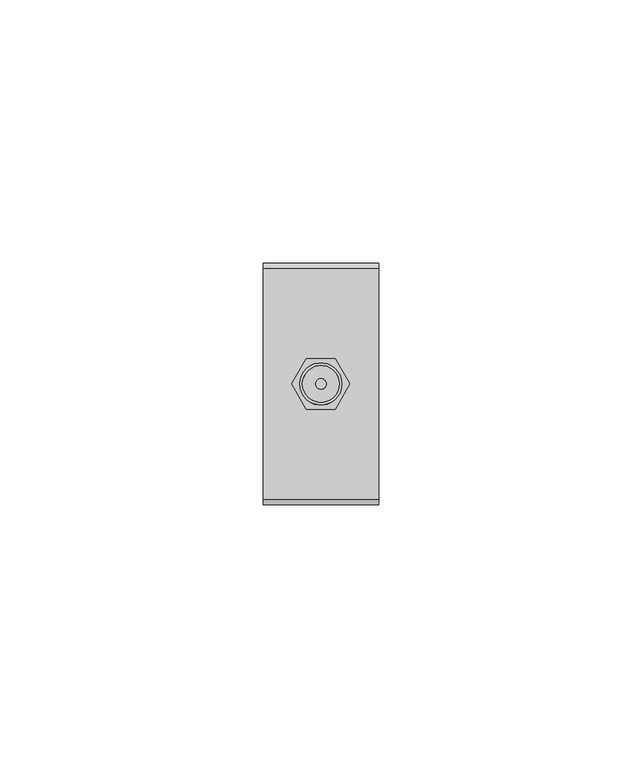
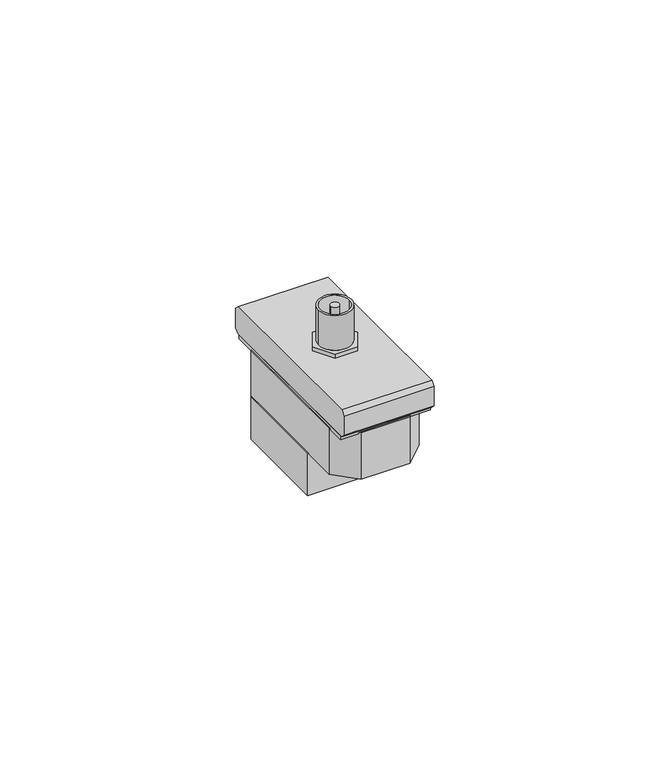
"""IFC4 building model written with IfcOpenShell, lengths in millimetres: proxy geometry, L4202F LL Presa TV-SAT : L4202F LL Presa TV-SAT."""

from ifc_helpers import new_model, si_unit, frame, origin, origin_with_axes, place, context, project, spatial, polyline, circle_curve, outline, extrude, source, transform, mapped, element, save
from ifc_brep_helpers import plane_surface, cylinder_surface, revolved_surface, advanced_brep


def electrical_fixtures_40dd1942(model_context):
    return source(origin(), model_context, "Body", "SolidModel", [
        advanced_brep(
        [(-1.0, 0.0, 18.0), (1.0, 0.0, 18.0), (-4.0, 0.0, 18.0), (4.0, 0.0, 18.0), (-3.5, 0.0, 18.0), (3.5, 0.0, 18.0), (2.75, 4.7631397, 7.979899), (5.5, 0.0, 7.979899), (2.75, -4.7631397, 7.979899), (-2.75, -4.7631397, 7.979899), (-5.5, 0.0, 7.979899), (-2.75, 4.7631397, 7.979899), (-1.0, 0.0, 9.0249305), (1.0, 0.0, 9.0249305), (-4.0, 0.0, 9.0249305), (4.0, 0.0, 9.0249305), (-3.5, 0.0, 9.0249305), (3.5, 0.0, 9.0249305), (2.75, 4.7631397, 9.0249305), (-2.75, 4.7631397, 9.0249305), (-5.5, 0.0, 9.0249305), (-2.75, -4.7631397, 9.0249305), (2.75, -4.7631397, 9.0249305), (5.5, 0.0, 9.0249305)],
        [
            (0, 1, circle_curve(frame((0.0, 0.0, 18.0), z_axis=(0.0, 0.0, 1.0), x_axis=(1.0, 0.0, 0.0)), 1.0)),
            (1, 0, circle_curve(frame((0.0, 0.0, 18.0), z_axis=(0.0, 0.0, 1.0), x_axis=(1.0, 0.0, 0.0)), 1.0)),
            (2, 3, circle_curve(frame((0.0, 0.0, 18.0), z_axis=(0.0, 0.0, 1.0), x_axis=(1.0, 0.0, 0.0)), 4.0)),
            (3, 2, circle_curve(frame((0.0, 0.0, 18.0), z_axis=(0.0, 0.0, 1.0), x_axis=(1.0, 0.0, 0.0)), 4.0)),
            (4, 5, circle_curve(frame((0.0, 0.0, 18.0), z_axis=(0.0, 0.0, -1.0), x_axis=(1.0, 0.0, 0.0)), 3.5)),
            (5, 4, circle_curve(frame((0.0, 0.0, 18.0), z_axis=(0.0, 0.0, -1.0), x_axis=(1.0, 0.0, 0.0)), 3.5)),
            (6, 7),
            (7, 8),
            (8, 9),
            (9, 10),
            (10, 11),
            (11, 6),
            (0, 12),
            (12, 13, circle_curve(frame((0.0, 0.0, 9.0249305), z_axis=(0.0, 0.0, 1.0), x_axis=(1.0, 0.0, 0.0)), 1.0)),
            (13, 1),
            (13, 12, circle_curve(frame((0.0, 0.0, 9.0249305), z_axis=(0.0, 0.0, 1.0), x_axis=(1.0, 0.0, 0.0)), 1.0)),
            (2, 14),
            (14, 15, circle_curve(frame((0.0, 0.0, 9.0249305), z_axis=(0.0, 0.0, 1.0), x_axis=(1.0, 0.0, 0.0)), 4.0)),
            (15, 3),
            (15, 14, circle_curve(frame((0.0, 0.0, 9.0249305), z_axis=(0.0, 0.0, 1.0), x_axis=(1.0, 0.0, 0.0)), 4.0)),
            (4, 16),
            (16, 17, circle_curve(frame((0.0, 0.0, 9.0249305), z_axis=(0.0, 0.0, -1.0), x_axis=(1.0, 0.0, 0.0)), 3.5)),
            (17, 5),
            (17, 16, circle_curve(frame((0.0, 0.0, 9.0249305), z_axis=(0.0, 0.0, -1.0), x_axis=(1.0, 0.0, 0.0)), 3.5)),
            (18, 19),
            (19, 20),
            (20, 21),
            (21, 22),
            (22, 23),
            (23, 18),
            (18, 6),
            (11, 19),
            (10, 20),
            (9, 21),
            (8, 22),
            (7, 23),
        ],
        [
            plane_surface(frame((1.0, 0.0, 18.0), z_axis=(0.0, 0.0, 1.0), x_axis=(0.0, 1.0, 0.0))),
            plane_surface(frame((1.0, 0.0, 7.979899), z_axis=(0.0, 0.0, -1.0), x_axis=(0.0, -1.0, 0.0))),
            cylinder_surface(frame((0.0, 0.0, 7.979899), z_axis=(0.0, 0.0, 1.0), x_axis=(1.0, 0.0, 0.0)), 1.0),
            cylinder_surface(origin_with_axes(), 4.0),
            revolved_surface(polyline([(3.5, 0.0, 9.0249305), (3.5, 0.0, 18.0)]), (0.0, 0.0, 0.0), (0.0, 0.0, -1.0)),
            plane_surface(frame((2.75, 4.7631397, 9.0249305), z_axis=(0.0, 0.0, 1.0), x_axis=(-1.0, 0.0, 0.0))),
            plane_surface(frame((2.75, 4.7631397, 9.0249305), z_axis=(0.0, 1.0, 0.0), x_axis=(0.0, 0.0, -1.0))),
            plane_surface(frame((-2.75, 4.7631397, 9.0249305), z_axis=(-0.866025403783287, 0.5000000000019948, 0.0), x_axis=(0.0, 0.0, -1.0))),
            plane_surface(frame((-5.5, 0.0, 9.0249305), z_axis=(-0.8660254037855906, -0.49999999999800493, 0.0), x_axis=(0.0, 0.0, -1.0))),
            plane_surface(frame((-2.75, -4.7631397, 9.0249305), z_axis=(0.0, -1.0, 0.0), x_axis=(0.0, 0.0, -1.0))),
            plane_surface(frame((2.75, -4.7631397, 9.0249305), z_axis=(0.8660254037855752, -0.4999999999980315, 0.0), x_axis=(0.0, 0.0, -1.0))),
            plane_surface(frame((5.5, 0.0, 9.0249305), z_axis=(0.8660254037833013, 0.50000000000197, 0.0), x_axis=(0.0, 0.0, -1.0))),
        ],
        [
            (0, [[1, 2]]),
            (0, [[3, 4], [5, 6]]),
            (1, [[7, 8, 9, 10, 11, 12]]),
            (2, [[-1, 13, 14, 15]]),
            (2, [[-2, -15, 16, -13]]),
            (3, [[-3, 17, 18, 19]]),
            (3, [[-4, -19, 20, -17]]),
            (4, [[-5, 21, 22, 23]]),
            (4, [[-6, -23, 24, -21]]),
            (5, [[-22, -24], [-14, -16]]),
            (5, [[25, 26, 27, 28, 29, 30], [-18, -20]]),
            (6, [[-25, 31, -12, 32]]),
            (7, [[-26, -32, -11, 33]]),
            (8, [[-27, -33, -10, 34]]),
            (9, [[-28, -34, -9, 35]]),
            (10, [[-29, -35, -8, 36]]),
            (11, [[-30, -36, -7, -31]]),
        ],
    ),
        extrude(outline(polyline([(-22.0, 1.0), (-22.9899495, 1.9899495), (-22.9899495, 6.9899495), (-22.0, 7.979899), (22.0, 7.979899), (22.9899495, 6.9899495), (22.9899495, 1.9899495), (22.0, 1.0), (-22.0, 1.0)])), frame((-11.0, 0.0, 0.0), z_axis=(1.0, 0.0, 0.0), x_axis=(0.0, 1.0, 0.0)), (0.0, 0.0, 1.0), 22.0),
        extrude(outline(polyline([(-11.0, -7.5), (-11.0, 16.5), (-9.0, 18.5), (9.0, 18.5), (11.0, 16.5), (11.0, -7.5), (-11.0, -7.5)])), frame((0.0, 0.0, -23.0), z_axis=(0.0, 0.0, 1.0), x_axis=(1.0, 0.0, 0.0)), (0.0, 0.0, 1.0), 11.0),
        extrude(outline(polyline([(11.0, -16.5), (6.0, -21.5), (-6.0, -21.5), (-11.0, -16.5), (-11.0, 16.5), (-6.0, 21.5), (6.0, 21.5), (11.0, 16.5), (11.0, -16.5)])), frame((0.0, 0.0, -12.0), z_axis=(0.0, 0.0, 1.0), x_axis=(1.0, 0.0, 0.0)), (0.0, 0.0, 1.0), 12.0),
        extrude(outline(polyline([(11.0, -21.5), (-11.0, -21.5), (-11.0, 21.5), (11.0, 21.5), (11.0, -21.5)])), origin_with_axes(), (0.0, 0.0, 1.0), 1.0),
    ])


if __name__ == "__main__":
    model = new_model("IFC4")
    model_context = context("Model", 3, world=origin())
    ifc_project = project(units=[si_unit("LENGTHUNIT", "METRE", prefix="MILLI")], contexts=[model_context])
    site = spatial("IfcSite", under=ifc_project)
    building = spatial("IfcBuilding", under=site)
    placement = place(None, origin())
    electrical_fixtures_shape = electrical_fixtures_40dd1942(model_context)
    element("IfcBuildingElementProxy", 1, Name="L4202F LL Presa TV-SAT : L4202F LL Presa TV-SAT", ObjectType="L4202F LL Presa TV-SAT : L4202F LL Presa TV-SAT", at=placement, inside=building, context=model_context, shape_type="MappedRepresentation", body=[
        mapped(electrical_fixtures_shape, transform((0.0, 0.0, 0.0), x_axis=(1.0, 0.0, 0.0), y_axis=(0.0, 1.0, 0.0), z_axis=(0.0, 0.0, 1.0))),
    ])
    save(model, "model.ifc")
